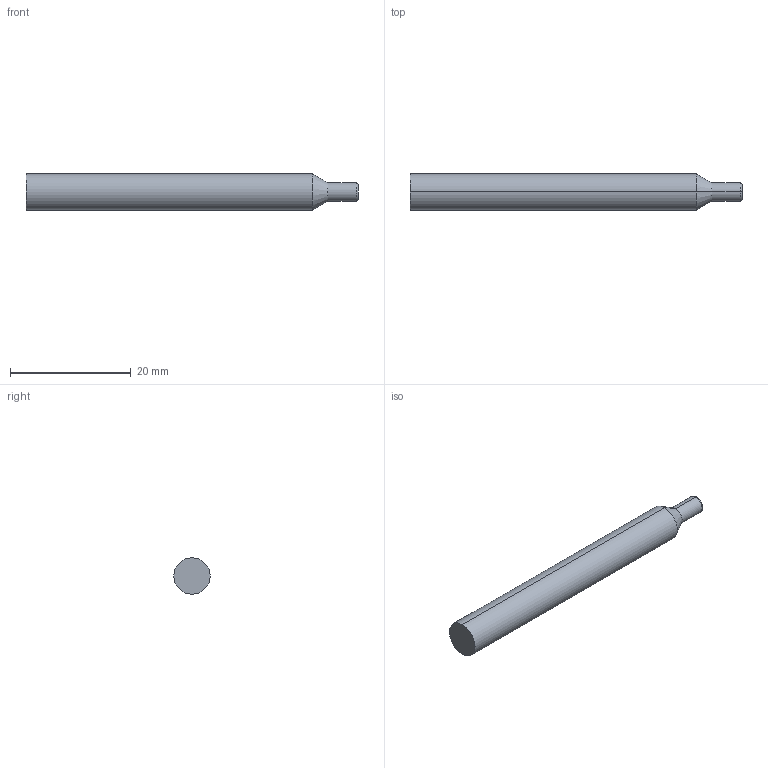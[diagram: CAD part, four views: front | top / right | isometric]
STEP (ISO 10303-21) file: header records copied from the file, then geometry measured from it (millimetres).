
FILE_DESCRIPTION (( 'STEP AP214' ), '1' );
FILE_NAME ('SSIST503M-.3.STEP', '2025-05-29T19:21:46', ( '' ), ( '' ), 'SwSTEP 2.0', 'SolidWorks 2023', '' );
FILE_SCHEMA (( 'AUTOMOTIVE_DESIGN' ));
Length unit declared in the file: millimetre
Products named in the file (3): SSI5 Metric CUTTING_SSIST503M-.3; SSI5 Metric SHANK_SSIST503M-.3; SSIST503M-.3
Assembly tree (2 placements, depth 2):
  SSIST503M-.3
    SSI5 Metric CUTTING_SSIST503M-.3
    SSI5 Metric SHANK_SSIST503M-.3
Bounding box: 55 x 6 x 6 mm (x, y, z)
Volume: 1418.3 mm3; surface area: 1031.3 mm2
Topology: 2 solids, 2 shells, 12 faces, 20 edges, 12 vertices
Faces by surface type: cylinder 4, plane 4, torus 2, cone 2
Entity records: 374 total; most frequent: DIRECTION 68, CARTESIAN_POINT 49, ORIENTED_EDGE 40, AXIS2_PLACEMENT_3D 31, EDGE_CURVE 20, CIRCLE 14, VERTEX_POINT 12, FACE_OUTER_BOUND 12
